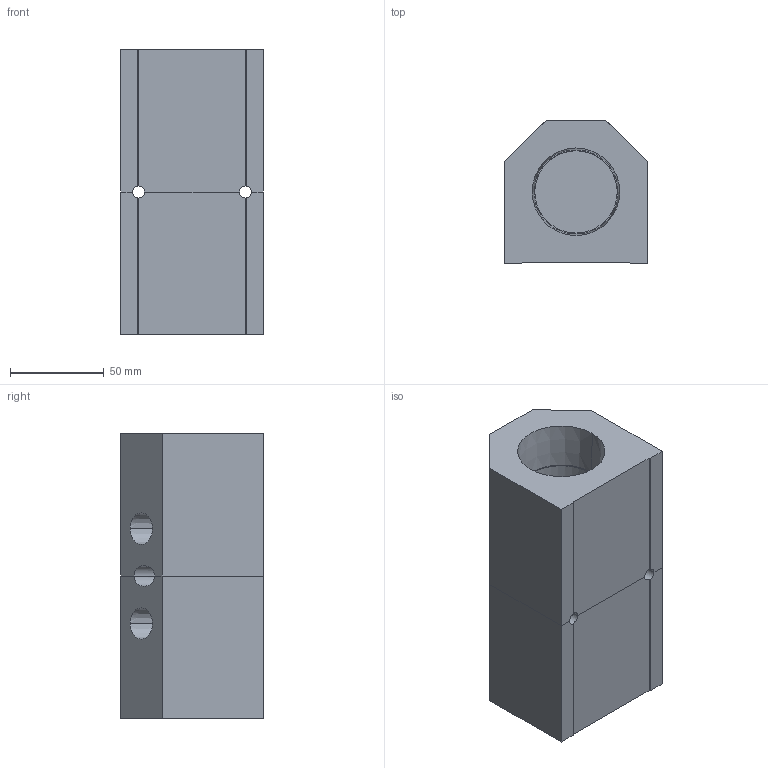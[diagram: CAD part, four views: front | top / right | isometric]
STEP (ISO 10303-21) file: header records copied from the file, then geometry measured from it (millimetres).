
FILE_DESCRIPTION (( 'STEP AP214' ), '1' );
FILE_NAME ('ALM2BCD-N6N24-152RB.step', '2022-02-07T09:15:50', ( '' ), ( '' ), 'SwSTEP 2.0', 'SolidWorks 2020', '' );
FILE_SCHEMA (( 'AUTOMOTIVE_DESIGN' ));
Length unit declared in the file: millimetre
Products named in the file (1): ALM2BCD-N6N24-152RB
Bounding box: 76.2 x 76.2 x 152 mm (x, y, z)
Volume: 542755.7 mm3; surface area: 87958.2 mm2
Topology: 2 solids, 2 shells, 350 faces, 922 edges, 614 vertices
Faces by surface type: plane 242, bspline 76, cylinder 16, cone 16
Entity records: 19318 total; most frequent: CARTESIAN_POINT 7927, ORIENTED_EDGE 1844, DIRECTION 1346, EDGE_CURVE 922, VECTOR 700, LINE 700, VERTEX_POINT 614, EDGE_LOOP 400
